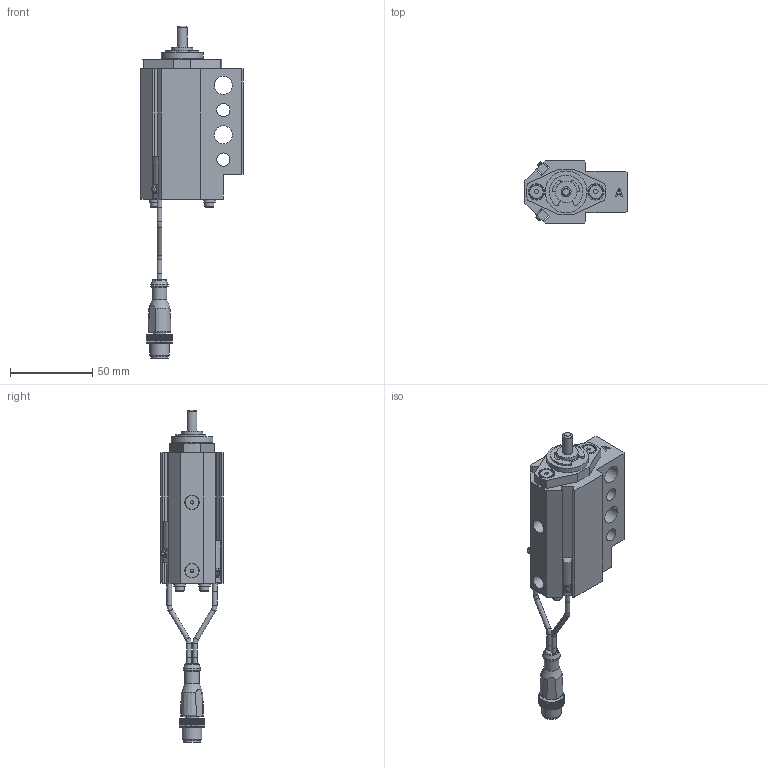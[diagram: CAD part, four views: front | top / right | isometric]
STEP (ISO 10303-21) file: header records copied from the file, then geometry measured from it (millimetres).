
FILE_DESCRIPTION(/* description */ ('NAAMS FLOATING MICRO PIN'),/* implementation_level */ '2;1');
FILE_NAME(/* name */ 'C:\Vault Workspace\CAD\Welker\Shot Pin\NMP\Step files\NMP060012EANL3.stp',/* time_stamp */ '2021-01-28T07:23:21-05:00',/* author */ ('WELKER'),/* organization */ (''),/* preprocessor_version */ 'ST-DEVELOPER v18.1',/* originating_system */ 'Autodesk Inventor 2020',/* authorisation */ '');
FILE_SCHEMA (('AUTOMOTIVE_DESIGN { 1 0 10303 214 3 1 1 }'));
Length unit declared in the file: millimetre
Products named in the file (16): NMPL01; NMP L3 SWITCH; L3 Connector; L3 Sensor 1; L3 Sensor 2; L3 Sensor cable; L3 Sensor cable 2; M3X0.5-8 SHCS; NL3; NMPE06; NMPE03; NMPE04-DIA-LENGTH; 985432A218; NMPE01A-PORT; RMPE02; M5X5 SHOULDER
Assembly tree (22 placements, depth 3):
  NMPL01
    NMP L3 SWITCH
      L3 Connector
      L3 Sensor 1
      L3 Sensor 2
      L3 Sensor cable
      L3 Sensor cable 2
    M3X0.5-8 SHCS  x4
    NL3  x4
    NMPE06
    NMPE03
    NMPE04-DIA-LENGTH
    985432A218
    NMPE01A-PORT
    RMPE02
    M5X5 SHOULDER  x2
Bounding box: 62 x 38.1 x 201.52 mm (x, y, z)
Volume: 108175.7 mm3; surface area: 45288 mm2
Topology: 21 solids, 21 shells, 744 faces, 2015 edges, 1346 vertices
Faces by surface type: plane 554, cylinder 144, cone 31, torus 11, bspline 2, sphere 2
Full cylindrical faces by diameter (mm): 2 x2, 2.459 x4, 2.9 x10, 3 x5, 3.242 x2, 3.4 x4, 4 x2, 5 x6, 5.5 x4, 6 x1, 7 x4, 8 x2, 8.3 x2, 9 x3, 10 x3, 10.4 x1, 10.5 x1, 11 x2, 12 x1, 13 x3, 16 x2, 19.05 x3, 21 x1, 22.5 x1, 23.672 x1, 24 x1, 25.4 x1, 25.5 x1, 26.5 x1, 28.677 x1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
Entity records: 22722 total; most frequent: CARTESIAN_POINT 4149, ORIENTED_EDGE 3728, DIRECTION 3711, EDGE_CURVE 1864, LINE 1383, VECTOR 1383, VERTEX_POINT 1251, AXIS2_PLACEMENT_3D 1164
